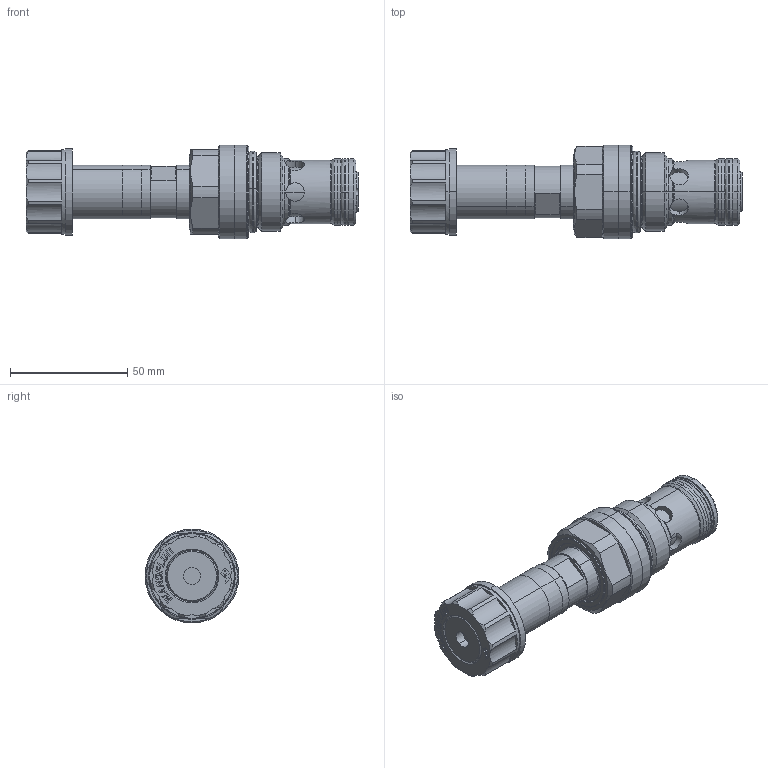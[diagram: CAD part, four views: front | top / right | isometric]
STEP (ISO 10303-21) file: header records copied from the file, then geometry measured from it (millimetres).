
FILE_DESCRIPTION (( 'STEP AP214' ), '1' );
FILE_NAME ('QNPPU16-X5.STEP', '2017-03-24T12:59:11', ( '' ), ( '' ), 'SwSTEP 2.0', 'SolidWorks 2016', '' );
FILE_SCHEMA (( 'AUTOMOTIVE_DESIGN' ));
Length unit declared in the file: millimetre
Products named in the file (1): QNPPU16-X5
Bounding box: 141.78 x 40 x 40 mm (x, y, z)
Volume: 95909.7 mm3; surface area: 27016.8 mm2
Topology: 5 solids, 7 shells, 449 faces, 1095 edges, 697 vertices
Faces by surface type: plane 180, cylinder 123, cone 65, torus 49, bspline 32
Entity records: 19951 total; most frequent: CARTESIAN_POINT 4540, DIRECTION 2227, ORIENTED_EDGE 2190, EDGE_CURVE 1095, AXIS2_PLACEMENT_3D 864, VERTEX_POINT 697, LINE 499, VECTOR 499
